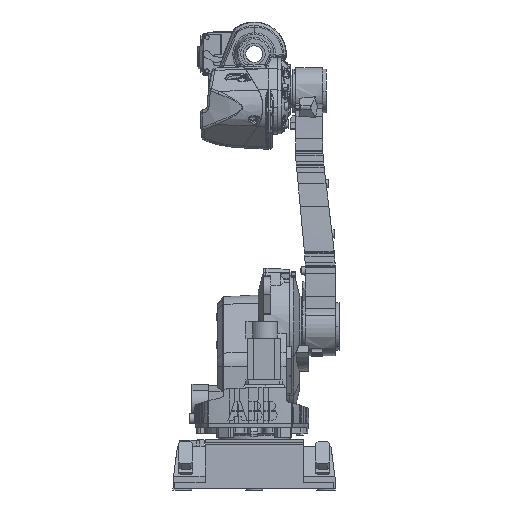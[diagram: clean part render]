
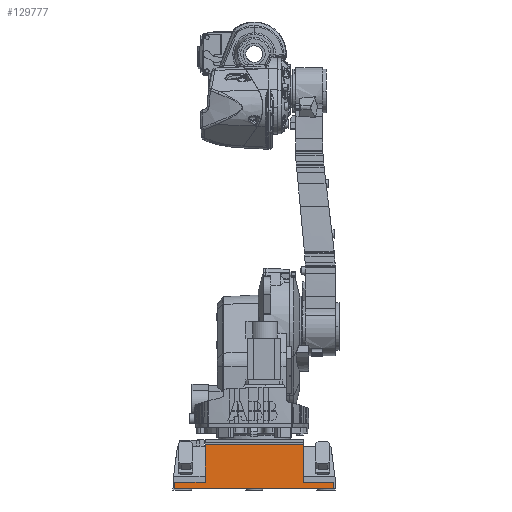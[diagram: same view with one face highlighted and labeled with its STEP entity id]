
A CAD part, left-side view. The second image highlights one B-rep face of the part: STEP entity #129777.
In plain terms, the highlighted planar face has unit normal (-0.999, 0, 0.035).
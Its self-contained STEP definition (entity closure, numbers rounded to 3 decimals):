
#2295 = ORIENTED_EDGE ( 'NONE', *, *, #124939, .F. ) ;
#13568 = VERTEX_POINT ( 'NONE', #84181 ) ;
#16224 = CARTESIAN_POINT ( 'NONE',  ( -365.46, 146., 135. ) ) ;
#23550 = DIRECTION ( 'NONE',  ( 0.035, 0., 0.999 ) ) ;
#23803 = ORIENTED_EDGE ( 'NONE', *, *, #179115, .T. ) ;
#29530 = DIRECTION ( 'NONE',  ( 0., 1., 0. ) ) ;
#32947 = VERTEX_POINT ( 'NONE', #127126 ) ;
#36106 = VERTEX_POINT ( 'NONE', #209962 ) ;
#38739 = CARTESIAN_POINT ( 'NONE',  ( -365.46, -146., 135. ) ) ;
#40823 = VECTOR ( 'NONE', #80025, 1000. ) ;
#45381 = DIRECTION ( 'NONE',  ( 0., 1., 0. ) ) ;
#57277 = CARTESIAN_POINT ( 'NONE',  ( -365.46, 236.501, 135. ) ) ;
#62101 = CARTESIAN_POINT ( 'NONE',  ( -370., -146., 5. ) ) ;
#63508 = ORIENTED_EDGE ( 'NONE', *, *, #172120, .T. ) ;
#64617 = CARTESIAN_POINT ( 'NONE',  ( -369.371, 236.24, 23. ) ) ;
#71785 = VERTEX_POINT ( 'NONE', #38739 ) ;
#75252 = DIRECTION ( 'NONE',  ( -0.035, 0., -0.999 ) ) ;
#75394 = LINE ( 'NONE', #156039, #207232 ) ;
#76557 = ORIENTED_EDGE ( 'NONE', *, *, #136969, .T. ) ;
#78711 = DIRECTION ( 'NONE',  ( 0.035, 0., 0.999 ) ) ;
#80025 = DIRECTION ( 'NONE',  ( 0.035, 0.014, 0.999 ) ) ;
#83305 = LINE ( 'NONE', #133621, #132496 ) ;
#84181 = CARTESIAN_POINT ( 'NONE',  ( -369.371, -146., 23. ) ) ;
#84419 = DIRECTION ( 'NONE',  ( 0.035, -0.014, 0.999 ) ) ;
#87887 = VERTEX_POINT ( 'NONE', #16224 ) ;
#88576 = VECTOR ( 'NONE', #29530, 1000. ) ;
#94348 = EDGE_LOOP ( 'NONE', ( #76557, #63508, #142742, #2295, #131058, #187064, #192856, #23803 ) ) ;
#95193 = CARTESIAN_POINT ( 'NONE',  ( -369.371, 236.501, 23. ) ) ;
#97085 = LINE ( 'NONE', #95193, #184995 ) ;
#101493 = LINE ( 'NONE', #62101, #184328 ) ;
#102387 = EDGE_CURVE ( 'NONE', #104635, #32947, #176578, .T. ) ;
#103825 = LINE ( 'NONE', #57277, #186643 ) ;
#104635 = VERTEX_POINT ( 'NONE', #123250 ) ;
#105864 = PLANE ( 'NONE',  #114569 ) ;
#107028 = EDGE_CURVE ( 'NONE', #104635, #36106, #167474, .T. ) ;
#114569 = AXIS2_PLACEMENT_3D ( 'NONE', #138391, #122486, #23550 ) ;
#121397 = VECTOR ( 'NONE', #75252, 1000. ) ;
#122486 = DIRECTION ( 'NONE',  ( -0.999, 0., 0.035 ) ) ;
#123250 = CARTESIAN_POINT ( 'NONE',  ( -370., -236.501, 5. ) ) ;
#124939 = EDGE_CURVE ( 'NONE', #32947, #141071, #83305, .T. ) ;
#127126 = CARTESIAN_POINT ( 'NONE',  ( -370., 236.501, 5. ) ) ;
#129777 = ADVANCED_FACE ( 'NONE', ( #165115 ), #105864, .T. ) ;
#131058 = ORIENTED_EDGE ( 'NONE', *, *, #102387, .F. ) ;
#132496 = VECTOR ( 'NONE', #84419, 1000. ) ;
#133621 = CARTESIAN_POINT ( 'NONE',  ( -370., 236.501, 5. ) ) ;
#136969 = EDGE_CURVE ( 'NONE', #71785, #87887, #103825, .T. ) ;
#138391 = CARTESIAN_POINT ( 'NONE',  ( -370., 236.501, 5. ) ) ;
#141071 = VERTEX_POINT ( 'NONE', #64617 ) ;
#142742 = ORIENTED_EDGE ( 'NONE', *, *, #154316, .T. ) ;
#142867 = VERTEX_POINT ( 'NONE', #195729 ) ;
#154316 = EDGE_CURVE ( 'NONE', #142867, #141071, #75394, .T. ) ;
#156039 = CARTESIAN_POINT ( 'NONE',  ( -369.371, 236.501, 23. ) ) ;
#160231 = LINE ( 'NONE', #174249, #121397 ) ;
#161740 = CARTESIAN_POINT ( 'NONE',  ( -370., 0., 5. ) ) ;
#165115 = FACE_OUTER_BOUND ( 'NONE', #94348, .T. ) ;
#167474 = LINE ( 'NONE', #179019, #40823 ) ;
#172120 = EDGE_CURVE ( 'NONE', #87887, #142867, #160231, .T. ) ;
#172745 = DIRECTION ( 'NONE',  ( 0., 1., 0. ) ) ;
#174249 = CARTESIAN_POINT ( 'NONE',  ( -370., 146., 5. ) ) ;
#176578 = LINE ( 'NONE', #161740, #88576 ) ;
#179019 = CARTESIAN_POINT ( 'NONE',  ( -370., -236.501, 5. ) ) ;
#179115 = EDGE_CURVE ( 'NONE', #13568, #71785, #101493, .T. ) ;
#184328 = VECTOR ( 'NONE', #78711, 1000. ) ;
#184995 = VECTOR ( 'NONE', #45381, 1000. ) ;
#186643 = VECTOR ( 'NONE', #189533, 1000. ) ;
#187064 = ORIENTED_EDGE ( 'NONE', *, *, #107028, .T. ) ;
#189533 = DIRECTION ( 'NONE',  ( 0., 1., 0. ) ) ;
#192856 = ORIENTED_EDGE ( 'NONE', *, *, #194549, .T. ) ;
#194549 = EDGE_CURVE ( 'NONE', #36106, #13568, #97085, .T. ) ;
#195729 = CARTESIAN_POINT ( 'NONE',  ( -369.371, 146., 23. ) ) ;
#207232 = VECTOR ( 'NONE', #172745, 1000. ) ;
#209962 = CARTESIAN_POINT ( 'NONE',  ( -369.371, -236.24, 23. ) ) ;
